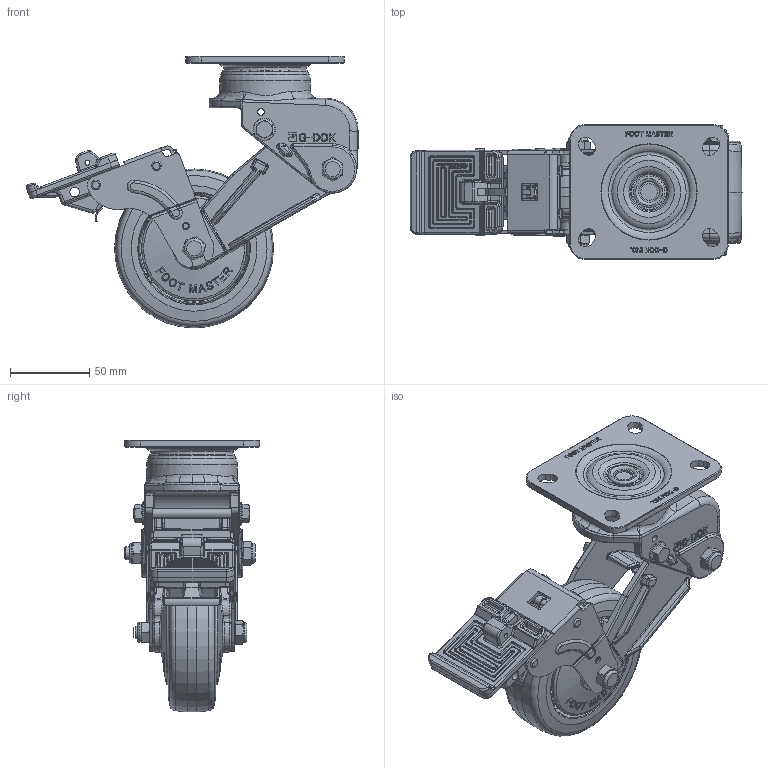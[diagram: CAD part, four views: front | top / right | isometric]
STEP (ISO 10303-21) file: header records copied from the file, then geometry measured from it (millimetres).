
FILE_DESCRIPTION(/* description */ (''),/* implementation_level */ '2;1');
FILE_NAME(/* name */ 'Z:\1.기술연구소\2.연구개발 진행중\25.충격흡수식_BBB\JYH\GDS-100-BB\2020년도\3.도면\1.3D\STEP-FILE\홈페이지용 3D_전달용\GDSB-100-BRF-LUD_PEU.stp',/* time_stamp */ '2021-10-08T20:09:59+09:00',/* author */ ('admin'),/* organization */ (''),/* preprocessor_version */ 'ST-DEVELOPER v18.1',/* originating_system */ 'Autodesk Inventor 2021',/* authorisation */ '');
FILE_SCHEMA (('AUTOMOTIVE_DESIGN { 1 0 10303 214 3 1 1 }'));
Products named in the file (1): GDSB-100-BRF-LUD_PEU
Bounding box: 208.85 x 85 x 171 mm (x, y, z)
Volume: 433282.9 mm3; surface area: 160712.4 mm2
Topology: 1 solids, 2 shells, 3778 faces, 9436 edges, 5730 vertices
Faces by surface type: bspline 1270, plane 1178, cylinder 860, torus 226, cone 192, sphere 52
Full cylindrical faces by diameter (mm): 3 x3, 3.1 x2, 4 x3, 4.2 x6, 4.5 x2, 4.782 x1, 4.8 x2, 6 x6, 6.2 x2, 7.007 x1, 7.4 x1, 7.95 x5, 8.2 x2, 9.95 x1, 10.2 x4, 10.7 x1, 11.6 x2, 12.5 x4, 14 x2, 20 x2, 20.903 x2, 22 x2, 39 x1, 46.062 x1, 52 x1, 57 x1, 100 x1
Entity records: 147440 total; most frequent: CARTESIAN_POINT 59099, ORIENTED_EDGE 18718, DIRECTION 16159, EDGE_CURVE 9359, AXIS2_PLACEMENT_3D 6228, VERTEX_POINT 5730, EDGE_LOOP 3981, FACE_OUTER_BOUND 3778
